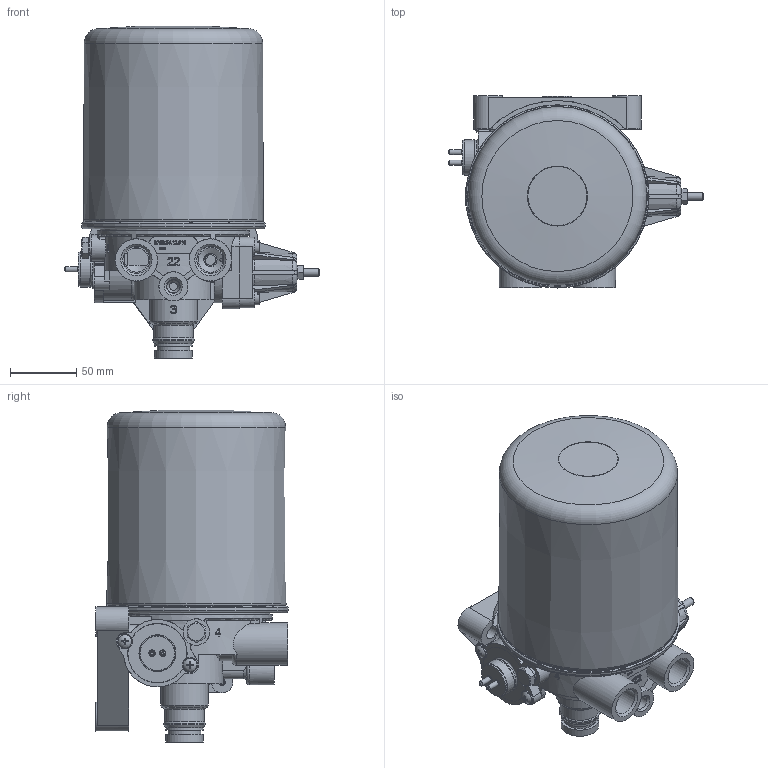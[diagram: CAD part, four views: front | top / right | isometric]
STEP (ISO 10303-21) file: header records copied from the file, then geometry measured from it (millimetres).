
FILE_DESCRIPTION(/* description */ (''),/* implementation_level */ '2;1');
FILE_NAME(/* name */ '8243.35.12.010-40-Реглятор давления с адсорбером_2.stp',/* time_stamp */ '2023-10-04T14:14:31+03:00',/* author */ (''),/* organization */ (''),/* preprocessor_version */ 'ST-DEVELOPER v16.7',/* originating_system */ 'SIEMENS PLM Software NX 1899',/* authorisation */ '');
FILE_SCHEMA (('AUTOMOTIVE_DESIGN { 1 0 10303 214 3 1 1 1 }'));
Length unit declared in the file: millimetre
Products named in the file (1): kuzm1DF85E98zv9u
Bounding box: 193.1 x 145.35 x 251.2 mm (x, y, z)
Volume: 459764.5 mm3; surface area: 358013.3 mm2
Topology: 1 solids, 15 shells, 1339 faces, 3626 edges, 2363 vertices
Faces by surface type: plane 695, cylinder 336, torus 150, cone 91, extrusion 56, bspline 9, sphere 2
Full cylindrical faces by diameter (mm): 1.7 x2, 2 x2, 2.2 x1, 2.5 x1, 3 x2, 3.2 x3, 3.5 x2, 4 x2, 4.2 x3, 5 x6, 5.5 x2, 6 x9, 6.2 x1, 6.6 x4, 7 x1, 8 x1, 9.5 x1, 10 x7, 10.2 x1, 10.5 x6, 11.5 x2, 12 x1, 14 x1, 16 x1, 16.6 x1, 18.5 x1, 20 x2, 20.5 x2, 22 x4, 22.4 x1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
Entity records: 46337 total; most frequent: CARTESIAN_POINT 14338, ORIENTED_EDGE 6560, DIRECTION 6398, EDGE_CURVE 3280, AXIS2_PLACEMENT_3D 2419, VERTEX_POINT 2267, EDGE_LOOP 1713, VECTOR 1560
